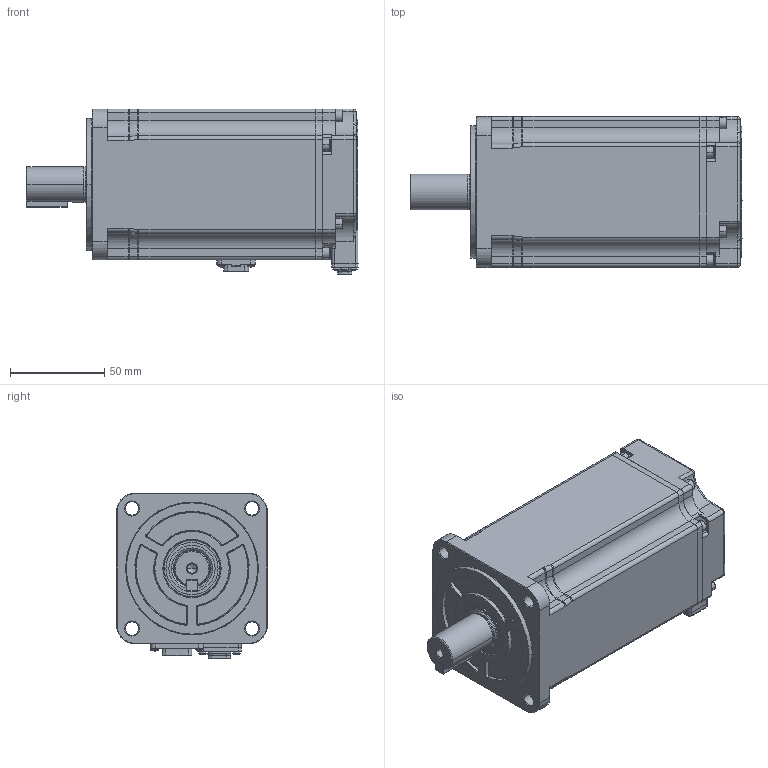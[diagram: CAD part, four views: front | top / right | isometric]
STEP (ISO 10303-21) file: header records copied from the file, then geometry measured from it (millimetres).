
FILE_DESCRIPTION((''),'2;1');
FILE_NAME('IMS20B-08M10C30C-2-XX4-AUL_ASM','2024-09-09T09:03:48',('admin'),(''),'CREO PARAMETRIC BY PTC INC, 2019080','CREO PARAMETRIC BY PTC INC, 2019080','');
FILE_SCHEMA(('CONFIG_CONTROL_DESIGN'));
Products named in the file (28): 10C-20002_1_AF1; SC-MC6P-AP2G-04_05__4_AF1; 10C-20001_ASM_2_AF1_ASM; 10C-0002_3_AF1; 600400_4_AF0; 620100_4_AF1; 80-2-0001_3_AF1; 8000_4_ASM; 10C-20003_ASM_4_AF1_ASM; 80-20001_4; SC-MC7P-A60G-18_4; A6X6X22000_5; 8030-19-40001_6; ISO7045-M2X4_1_AF4; ISO7045-M2X4_1_AF5; ISO7045-M2X4_1_AF6; ISO7045-M2X5_1; ISO7045-M2X4_1_AF7; ISO4762-M3X20_1_AF8; ISO4762-M3X20_1_AF9; ISO4762-M3X20_1_AF10; ISO4762-M3X20_1_AF11; ISO4762-M3X20_1_AF12; ISO4762-M3X20_1_AF13; ISO4762-M3X20_1_AF14; ISO4762-M3X20_1_AF15; 10C-0001_ASM_27_AF1_ASM; IMS20B-08M10C30C-2-XX4-AUL_ASM
Assembly tree (30 placements, depth 4):
  IMS20B-08M10C30C-2-XX4-AUL_ASM
    10C-0001_ASM_27_AF1_ASM
      10C-20001_ASM_2_AF1_ASM
        10C-20002_1_AF1
        SC-MC6P-AP2G-04_05__4_AF1
      10C-20003_ASM_4_AF1_ASM
        10C-0002_3_AF1
        600400_4_AF0
        620100_4_AF1
        80-2-0001_3_AF1
        8000_4_ASM
      80-20001_4
      SC-MC7P-A60G-18_4
      A6X6X22000_5
      8030-19-40001_6
      ISO7045-M2X4_1_AF4
      ISO7045-M2X4_1_AF5
      ISO7045-M2X4_1_AF6
      ISO7045-M2X5_1  x4
      ISO7045-M2X4_1_AF7
      ISO4762-M3X20_1_AF8
      ISO4762-M3X20_1_AF9
      ISO4762-M3X20_1_AF10
      ISO4762-M3X20_1_AF11
      ISO4762-M3X20_1_AF12
      ISO4762-M3X20_1_AF13
      ISO4762-M3X20_1_AF14
      ISO4762-M3X20_1_AF15
Bounding box: 176 x 80 x 87.95 mm (x, y, z)
Volume: 235164 mm3; surface area: 136911.7 mm2
Topology: 26 solids, 58 shells, 2617 faces, 6803 edges, 4340 vertices
Faces by surface type: plane 1290, cylinder 832, torus 202, cone 154, sphere 56, extrusion 49, bspline 34
Entity records: 85106 total; most frequent: CARTESIAN_POINT 20863, DIRECTION 13793, ORIENTED_EDGE 12980, EDGE_CURVE 6548, AXIS2_PLACEMENT_3D 4914, VERTEX_POINT 4214, VECTOR 3965, LINE 3916
